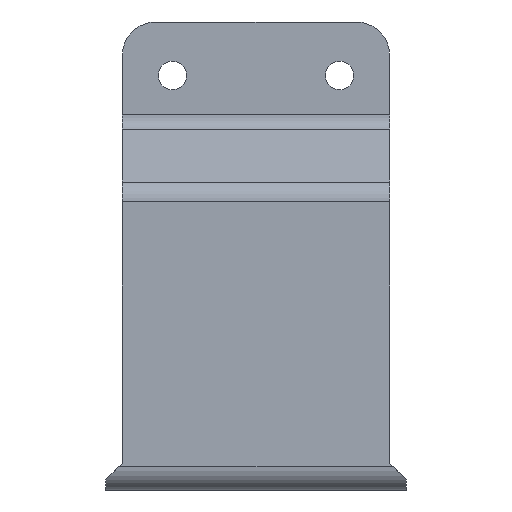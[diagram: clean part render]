
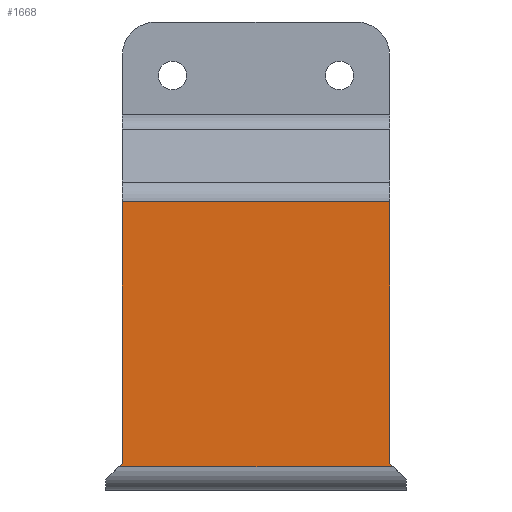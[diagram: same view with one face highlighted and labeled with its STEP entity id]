
A CAD part, left-side view. The second image highlights one B-rep face of the part: STEP entity #1668.
In plain terms, the highlighted planar face has unit normal (-1, 0, 0).
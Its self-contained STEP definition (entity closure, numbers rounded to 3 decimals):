
#88 = EDGE_CURVE ( 'NONE', #1463, #1253, #267, .T. ) ;
#198 = FACE_OUTER_BOUND ( 'NONE', #1033, .T. ) ;
#210 = ORIENTED_EDGE ( 'NONE', *, *, #1823, .F. ) ;
#267 = LINE ( 'NONE', #781, #1724 ) ;
#313 = CARTESIAN_POINT ( 'NONE',  ( -76.75, -41., -117. ) ) ;
#316 = CARTESIAN_POINT ( 'NONE',  ( -76.75, 41., -117. ) ) ;
#344 = ORIENTED_EDGE ( 'NONE', *, *, #1765, .F. ) ;
#370 = VECTOR ( 'NONE', #1557, 1000. ) ;
#422 = LINE ( 'NONE', #2271, #1243 ) ;
#449 = LINE ( 'NONE', #809, #2088 ) ;
#547 = AXIS2_PLACEMENT_3D ( 'NONE', #1918, #2093, #1179 ) ;
#781 = CARTESIAN_POINT ( 'NONE',  ( -76.75, -40., 0. ) ) ;
#809 = CARTESIAN_POINT ( 'NONE',  ( -76.75, -40., -116. ) ) ;
#818 = CARTESIAN_POINT ( 'NONE',  ( -76.75, -40., -37.81 ) ) ;
#830 = DIRECTION ( 'NONE',  ( 0., -0.707, -0.707 ) ) ;
#842 = DIRECTION ( 'NONE',  ( 0., -0.707, 0.707 ) ) ;
#858 = VECTOR ( 'NONE', #2120, 1000. ) ;
#864 = VERTEX_POINT ( 'NONE', #316 ) ;
#1008 = PLANE ( 'NONE',  #547 ) ;
#1028 = VECTOR ( 'NONE', #1755, 1000. ) ;
#1033 = EDGE_LOOP ( 'NONE', ( #2209, #2031, #344, #1590, #210, #2352 ) ) ;
#1162 = CARTESIAN_POINT ( 'NONE',  ( -76.75, -40., -116. ) ) ;
#1179 = DIRECTION ( 'NONE',  ( 0., 0., -1. ) ) ;
#1243 = VECTOR ( 'NONE', #842, 1000. ) ;
#1253 = VERTEX_POINT ( 'NONE', #1162 ) ;
#1335 = LINE ( 'NONE', #1352, #858 ) ;
#1352 = CARTESIAN_POINT ( 'NONE',  ( -76.75, 50., -117. ) ) ;
#1379 = CARTESIAN_POINT ( 'NONE',  ( -76.75, 0., -37.81 ) ) ;
#1451 = VERTEX_POINT ( 'NONE', #2134 ) ;
#1463 = VERTEX_POINT ( 'NONE', #818 ) ;
#1482 = DIRECTION ( 'NONE',  ( 0., 0., -1. ) ) ;
#1509 = LINE ( 'NONE', #1379, #1028 ) ;
#1544 = CARTESIAN_POINT ( 'NONE',  ( -76.75, 40., 0. ) ) ;
#1557 = DIRECTION ( 'NONE',  ( 0., 0., 1. ) ) ;
#1590 = ORIENTED_EDGE ( 'NONE', *, *, #1764, .F. ) ;
#1668 = ADVANCED_FACE ( 'NONE', ( #198 ), #1008, .F. ) ;
#1679 = EDGE_CURVE ( 'NONE', #1253, #2293, #449, .T. ) ;
#1724 = VECTOR ( 'NONE', #1482, 1000. ) ;
#1742 = EDGE_CURVE ( 'NONE', #864, #2293, #1335, .T. ) ;
#1755 = DIRECTION ( 'NONE',  ( 0., -1., 0. ) ) ;
#1764 = EDGE_CURVE ( 'NONE', #1920, #1451, #2313, .T. ) ;
#1765 = EDGE_CURVE ( 'NONE', #1451, #1463, #1509, .T. ) ;
#1785 = CARTESIAN_POINT ( 'NONE',  ( -76.75, 40., -116. ) ) ;
#1823 = EDGE_CURVE ( 'NONE', #864, #1920, #422, .T. ) ;
#1918 = CARTESIAN_POINT ( 'NONE',  ( -76.75, 0., 0. ) ) ;
#1920 = VERTEX_POINT ( 'NONE', #1785 ) ;
#2031 = ORIENTED_EDGE ( 'NONE', *, *, #88, .F. ) ;
#2088 = VECTOR ( 'NONE', #830, 1000. ) ;
#2093 = DIRECTION ( 'NONE',  ( 1., 0., 0. ) ) ;
#2120 = DIRECTION ( 'NONE',  ( 0., -1., 0. ) ) ;
#2134 = CARTESIAN_POINT ( 'NONE',  ( -76.75, 40., -37.81 ) ) ;
#2209 = ORIENTED_EDGE ( 'NONE', *, *, #1679, .F. ) ;
#2271 = CARTESIAN_POINT ( 'NONE',  ( -76.75, 45., -121. ) ) ;
#2293 = VERTEX_POINT ( 'NONE', #313 ) ;
#2313 = LINE ( 'NONE', #1544, #370 ) ;
#2352 = ORIENTED_EDGE ( 'NONE', *, *, #1742, .T. ) ;
